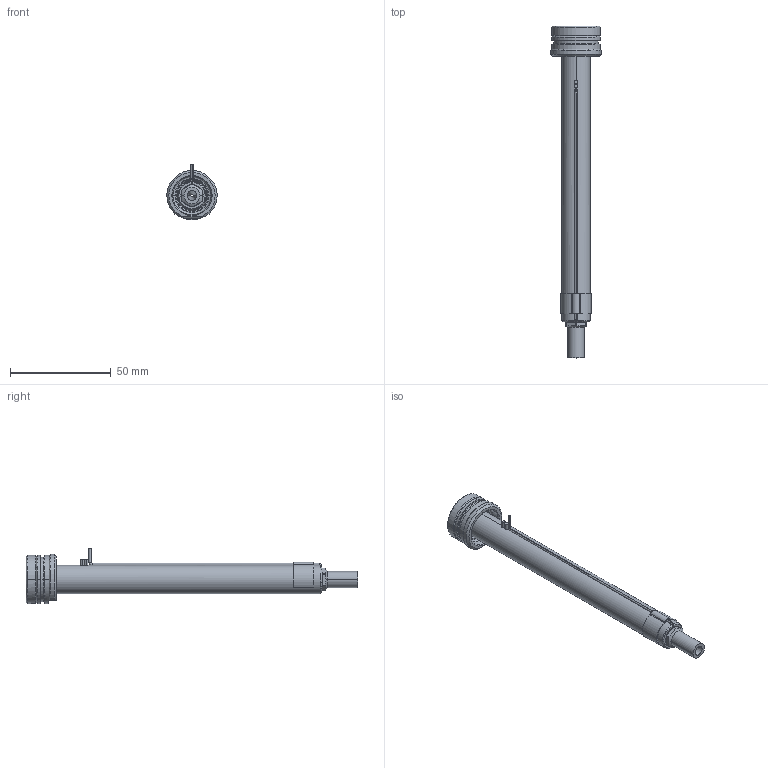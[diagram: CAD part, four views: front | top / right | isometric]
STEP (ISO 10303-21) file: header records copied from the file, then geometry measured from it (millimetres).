
FILE_DESCRIPTION((''),'2;1');
FILE_NAME('EO04_SG_ESG_140_SW','2024-02-19T12:14:38',('sundharh'),(''),'CREO PARAMETRIC BY PTC INC, 2023154','CREO PARAMETRIC BY PTC INC, 2023154','');
FILE_SCHEMA(('CONFIG_CONTROL_DESIGN'));
Length unit declared in the file: millimetre
Products named in the file (1): EO04_SG_ESG_140_SW
Bounding box: 24.99 x 165 x 27.5 mm (x, y, z)
Volume: 25413.9 mm3; surface area: 12286.9 mm2
Topology: 2 solids, 2 shells, 181 faces, 461 edges, 276 vertices
Faces by surface type: cylinder 67, plane 44, cone 34, torus 22, bspline 11, sphere 3
Entity records: 6470 total; most frequent: CARTESIAN_POINT 2100, DIRECTION 944, ORIENTED_EDGE 902, EDGE_CURVE 451, AXIS2_PLACEMENT_3D 392, VERTEX_POINT 276, CIRCLE 222, EDGE_LOOP 195
